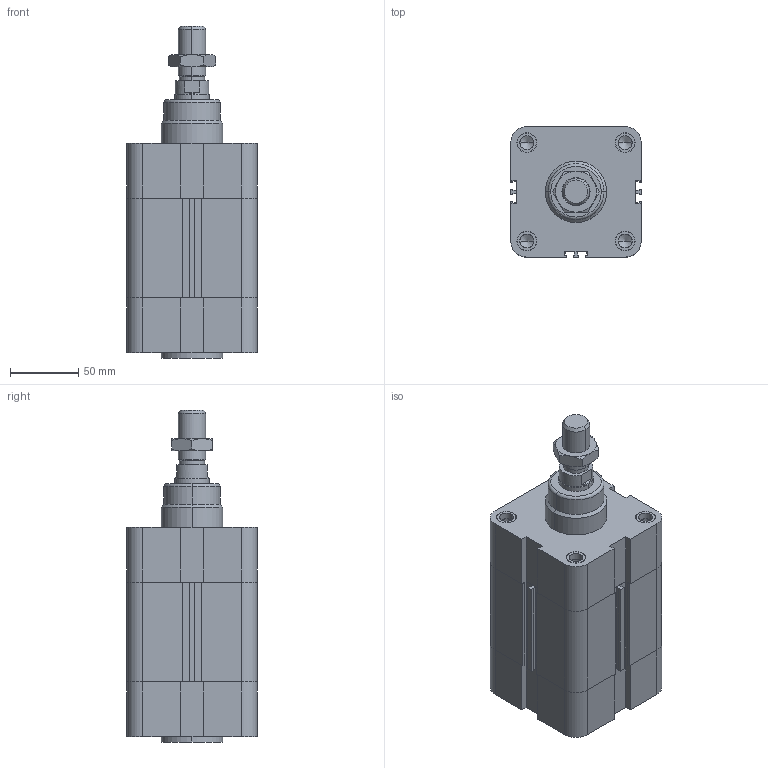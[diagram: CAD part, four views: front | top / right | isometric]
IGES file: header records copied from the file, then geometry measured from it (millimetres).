
Global section: file name: No Iges File Name specified; native system: Autodesk Inventor 2010; preprocessor: AutoDesk Inventor Iges Exporter R2010; author: rivolro1; date: 20090707.103358; units: millimetre
Bounding box: 95.5 x 95.5 x 243 mm (x, y, z)
Volume: 1285702.1 mm3; surface area: 180462 mm2
Topology: 5 solids, 5 shells, 290 faces, 694 edges, 440 vertices
Faces by surface type: plane 120, bspline 74, cylinder 40, revolution 34, cone 20, torus 2
